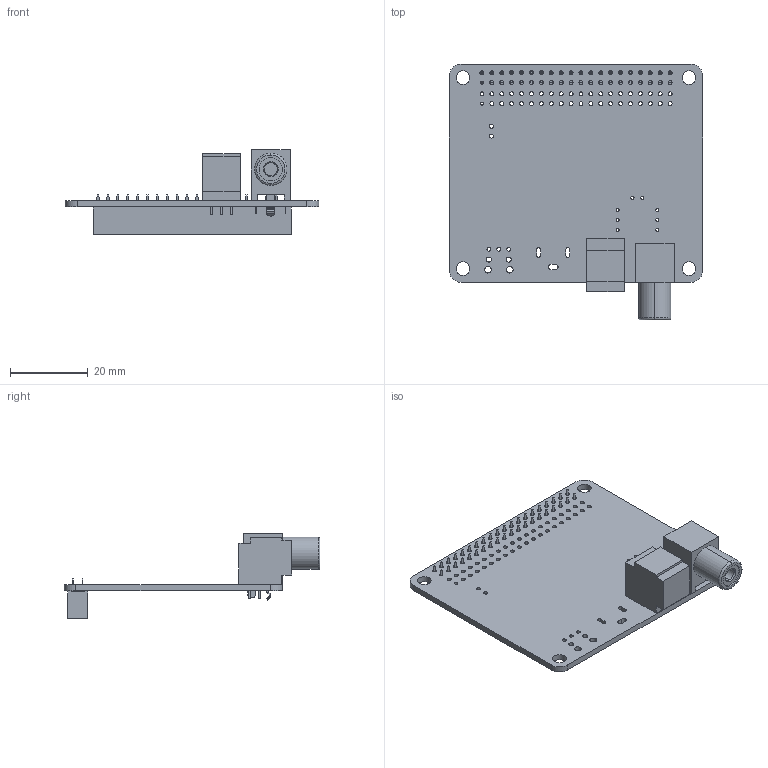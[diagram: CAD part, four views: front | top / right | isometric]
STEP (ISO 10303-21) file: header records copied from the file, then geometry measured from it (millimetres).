
FILE_DESCRIPTION(('KiCad electronic assembly'),'2;1');
FILE_NAME('hifiberry-digi-plus.step','2019-07-26T08:26:10',('An Author') ,('A Company'),'Open CASCADE STEP processor 6.9', 'KiCad to STEP converter','Unknown');
FILE_SCHEMA(('AUTOMOTIVE_DESIGN { 1 0 10303 214 1 1 1 1 }'));
Length unit declared in the file: millimetre
Products named in the file (8): Open CASCADE STEP translator 6.9 1; pjran1x1_Series; SOLID; PinSocket_2x20_P2.54mm_Vertical; plt-133-t6a; COMPOUND
Assembly tree (7 placements, depth 3):
  Open CASCADE STEP translator 6.9 1
    pjran1x1_Series
      SOLID
    PinSocket_2x20_P2.54mm_Vertical
      SOLID
    plt-133-t6a
      SOLID
    COMPOUND
Bounding box: 65 x 65.67 x 21.69 mm (x, y, z)
Volume: 10327.8 mm3; surface area: 12090.5 mm2
Topology: 4 solids, 4 shells, 1475 faces, 3844 edges, 2508 vertices
Faces by surface type: plane 1325, cylinder 146, cone 2, torus 2
Full cylindrical faces by diameter (mm): 0.5 x3, 0.66 x2, 0.8 x6, 0.813 x4, 1 x6, 1.016 x80, 1.3 x4, 1.7 x4, 3.5 x4
Entity records: 104744 total; most frequent: CARTESIAN_POINT 17251, DIRECTION 14530, LINE 10930, VECTOR 10930, ORIENTED_EDGE 7688, PCURVE 7688, DEFINITIONAL_REPRESENTATION 7688, EDGE_CURVE 3844
